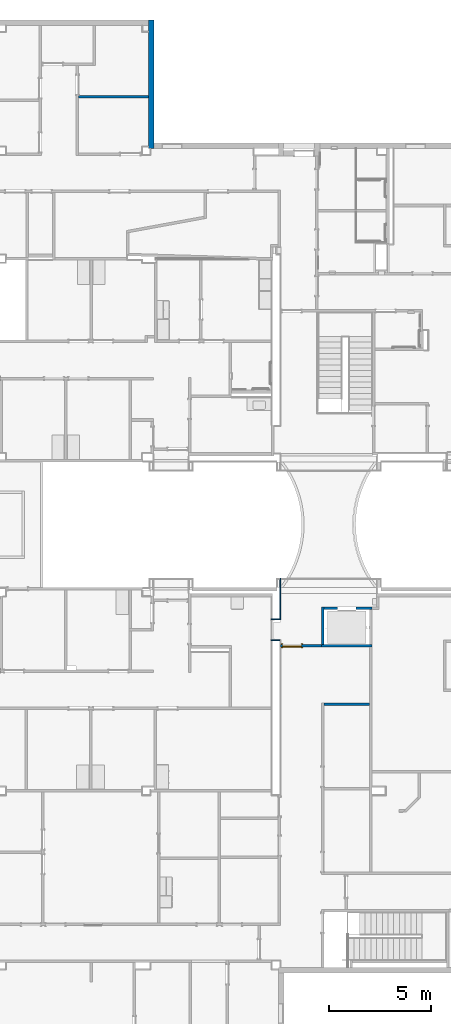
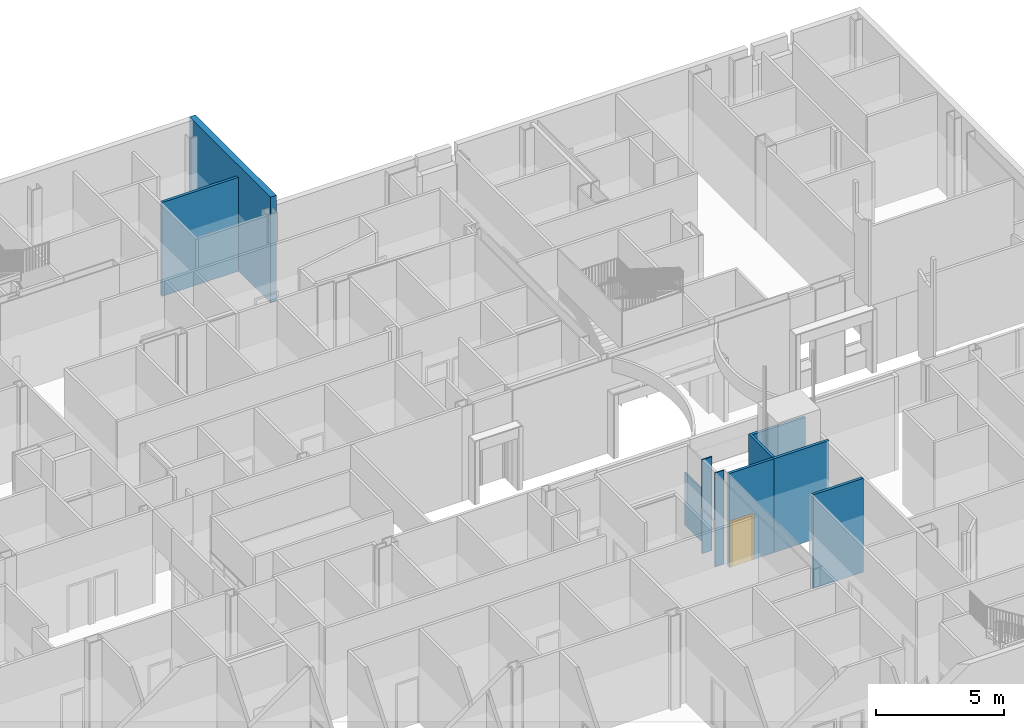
# One storey, part 35 of 82: 10 walls, 1 door, 2 openings.
"""IFC2X3 building model written with IfcOpenShell, lengths in metres."""

from ifc_helpers import new_model, entity, si_unit, converted_unit, frame, frame_2d, origin, origin_2d_with_axis, place, context, project, spatial, polyline, rectangle, outline, extrude, source, transform, mapped, material, layer, layer_set, layer_usage, type_object, type_shapes, element, fill, save


model = new_model("IFC2X3")

# Units and contexts
model_context = context("Model", 3, precision=1e-09, world=origin())
plan_context = context("Plan", 3, precision=1e-09, world=origin())
ifc_project = project(units=[si_unit("LENGTHUNIT", "METRE"), si_unit("AREAUNIT", "SQUARE_METRE"), si_unit("VOLUMEUNIT", "CUBIC_METRE"), converted_unit("PLANEANGLEUNIT", "DEGREE", entity("IfcRatioMeasure", 0.01745329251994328), si_unit("PLANEANGLEUNIT", "RADIAN"), dimensions=[0, 0, 0, 0, 0, 0, 0]), si_unit("TIMEUNIT", "SECOND")], contexts=[model_context, plan_context])

# Site, building, storey
site_placement = place(None, origin())
site = spatial("IfcSite", under=ifc_project, at=site_placement, Name="Default", CompositionType="ELEMENT")
building_placement = place(site_placement, origin())
building = spatial("IfcBuilding", under=site, at=building_placement, CompositionType="ELEMENT")
storey_placement = place(building_placement, origin())
storey = spatial("IfcBuildingStorey", under=building, at=storey_placement, Name="First Floor", CompositionType="ELEMENT", Elevation=-3.531500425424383e-13)

# Wall
ifc_material_1 = material(Name="Insulation - Insulated Panel")
ifc_layer_1 = layer(ifc_material_1, 0.042)
ifc_material_2 = material(Name="Metal - Firring")
ifc_layer_2 = layer(ifc_material_2, 0.038)
ifc_material_3 = material(Name="Wood - Sheathing - plywood")
ifc_layer_3 = layer(ifc_material_3, 0.019)
ifc_material_4 = material(Name="Metal - Stud Layer")
ifc_layer_4 = layer(ifc_material_4, 0.152)
ifc_material_5 = material(Name="Plasterboard")
ifc_layer_5 = layer(ifc_material_5, 0.016)
ifc_layer_set_1 = layer_set([ifc_layer_1, ifc_layer_2, ifc_layer_3, ifc_layer_4, ifc_layer_5], Name="Basic Wall:Exterior - Insul Panel on Mtl. Stud")
ifc_layer_usage_1 = layer_usage(ifc_layer_set_1, "AXIS2", "NEGATIVE", 0.1335)
wall_1_placement = place(storey_placement, frame((-26.19350000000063, 56.5199999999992, 0.0), z_axis=(0.0, 0.0, 1.0), x_axis=(0.0, -1.0, 0.0)))
element("IfcWallStandardCase", 1, at=wall_1_placement, inside=storey, material=ifc_layer_usage_1, Name="Basic Wall:Exterior - Insul Panel on Mtl. Stud", ObjectType="Basic Wall:Exterior - Insul Panel on Mtl. Stud", context=model_context, shape_type="SweptSolid", body=[
    extrude(rectangle(XDim=6.31699999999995, YDim=0.2669999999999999, at=frame_2d((3.158499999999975, 0.0), x_axis=(-1.0, 0.0))), origin(), (0.0, 0.0, 1.0), 5.02700000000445),
])

# Wall, opening
ifc_material_6 = material(Name="Type-X Plasterboard")
ifc_layer_6 = layer(ifc_material_6, 0.016)
ifc_layer_7 = layer(ifc_material_4, 0.092)
ifc_layer_8 = layer(ifc_material_6, 0.016)
ifc_layer_set_2 = layer_set([ifc_layer_6, ifc_layer_7, ifc_layer_8], Name="Basic Wall:Interior - Rated 1-HR (92mm Stud)")
ifc_layer_usage_2 = layer_usage(ifc_layer_set_2, "AXIS2", "NEGATIVE", 0.06200000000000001)
wall_2_placement = place(storey_placement, frame((-17.70520000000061, 27.58389999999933, 0.0)))
wall_2 = element("IfcWallStandardCase", 2, at=wall_2_placement, inside=storey, material=ifc_layer_usage_2, Name="Basic Wall:Interior - Rated 1-HR (92mm Stud)", ObjectType="Basic Wall:Interior - Rated 1-HR (92mm Stud)", context=model_context, shape_type="SweptSolid", body=[
    extrude(rectangle(XDim=2.369200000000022, YDim=0.1239999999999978, at=frame_2d((1.184600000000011, 0.0), x_axis=(-1.0, 0.0))), origin(), (0.0, 0.0, 1.0), 4.46800000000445),
])
opening_1_placement = place(wall_2_placement, frame((1.117599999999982, 0.0619999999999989, 1.067000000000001)))
element("IfcOpeningElement", 3, at=opening_1_placement, cuts=wall_2, Name="Basic Wall:Interior - Rated 1-HR (92mm Stud):2", ObjectType="Opening", context=model_context, shape_type="SweptSolid", body=[
    extrude(rectangle(XDim=2.134, YDim=0.9144000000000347, at=frame_2d((0.0, 0.0), x_axis=(0.0, 1.0))), frame((0.0, 0.0, 0.0), z_axis=(0.0, -1.0, 0.0), x_axis=(1.0, 0.0, 0.0)), (0.0, 0.0, 1.0), 0.124),
])

# Wall
wall_3_placement = place(storey_placement, frame((-15.33600000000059, 25.74539999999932, 0.0), z_axis=(0.0, 0.0, 1.0), x_axis=(-1.0, 0.0, 0.0)))
element("IfcWallStandardCase", 4, at=wall_3_placement, inside=storey, material=ifc_layer_usage_2, Name="Basic Wall:Interior - Rated 1-HR (92mm Stud)", ObjectType="Basic Wall:Interior - Rated 1-HR (92mm Stud)", context=model_context, shape_type="SweptSolid", body=[
    extrude(rectangle(XDim=2.493200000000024, YDim=0.1239999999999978, at=frame_2d((1.246600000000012, 0.0), x_axis=(-1.0, 0.0))), origin(), (0.0, 0.0, 1.0), 4.468000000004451),
])

# Wall, opening, door
ifc_layer_9 = layer(ifc_material_5, 0.016)
ifc_layer_10 = layer(ifc_material_4, 0.092)
ifc_layer_11 = layer(ifc_material_5, 0.016)
ifc_layer_set_3 = layer_set([ifc_layer_9, ifc_layer_10, ifc_layer_11], Name="Basic Wall:Interior - Partition (92mm Stud)")
ifc_layer_usage_3 = layer_usage(ifc_layer_set_3, "AXIS2", "NEGATIVE", 0.062)
wall_4_placement = place(storey_placement, frame((-17.82920000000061, 25.74539999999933, 0.0), z_axis=(0.0, 0.0, 1.0), x_axis=(-1.0, 0.0, 0.0)))
wall_4 = element("IfcWallStandardCase", 5, at=wall_4_placement, inside=storey, material=ifc_layer_usage_3, Name="Basic Wall:Interior - Partition (92mm Stud)", ObjectType="Basic Wall:Interior - Partition (92mm Stud)", context=model_context, shape_type="SweptSolid", body=[
    extrude(rectangle(XDim=2.000800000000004, YDim=0.1239999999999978, at=frame_2d((1.000400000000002, 0.0), x_axis=(-1.0, 0.0))), origin(), (0.0, 0.0, 1.0), 4.46800000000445),
])
opening_2_placement = place(wall_4_placement, frame((0.9858000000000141, -0.06200000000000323, 0.0)))
opening_2 = element("IfcOpeningElement", 6, at=opening_2_placement, cuts=wall_4, Name=":1", ObjectType="Opening", context=model_context, shape_type="SweptSolid", body=[
    extrude(rectangle(XDim=0.9149999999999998, YDim=2.134, at=frame_2d((1.067, 0.4574999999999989), x_axis=(0.0, 1.0))), frame((0.0, 0.0, 0.0), z_axis=(0.0, 1.0, 0.0), x_axis=(0.0, 0.0, 1.0)), (0.0, 0.0, 1.0), 0.124),
])
door_style = type_object("IfcDoorStyle", Name="0915 x 2134mm", ConstructionType="NOTDEFINED", OperationType="SINGLE_SWING_RIGHT", ParameterTakesPrecedence=False, Sizeable=False)
shared_shape = source(origin(), model_context, "Body", "SweptSolid", [
    extrude(outline(polyline([(-0.5335, -1.123999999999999), (0.5334999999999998, -1.123999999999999), (0.5334999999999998, 1.086), (0.4574999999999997, 1.086), (0.4574999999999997, -1.048000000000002), (-0.4574999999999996, -1.048000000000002), (-0.4574999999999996, 1.086), (-0.5335, 1.086), (-0.5335, -1.123999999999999)])), frame((0.4575000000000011, 0.1239999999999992, 1.086), z_axis=(0.0, 1.0, 0.0), x_axis=(1.0, 0.0, 0.0)), (0.0, 0.0, 1.0), 0.02499999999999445),
    extrude(outline(polyline([(-1.123999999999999, -0.5334999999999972), (1.085999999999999, -0.5334999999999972), (1.085999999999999, -0.4575000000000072), (-1.048, -0.4575000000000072), (-1.048, 0.4575000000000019), (1.085999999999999, 0.4575000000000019), (1.085999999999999, 0.5335000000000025), (-1.123999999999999, 0.5335000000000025), (-1.123999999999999, -0.5334999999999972)])), frame((0.4575000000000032, -0.02500000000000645, 1.085999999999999), z_axis=(0.0, 1.0, 0.0), x_axis=(0.0, 0.0, -1.0)), (0.0, 0.0, 1.0), 0.02500000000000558),
    extrude(rectangle(XDim=0.051, YDim=0.9149999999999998, at=origin_2d_with_axis()), frame((0.4575000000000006, 0.09849999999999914, 0.0), z_axis=(0.0, 0.0, 1.0), x_axis=(0.0, 1.0, 0.0)), (0.0, 0.0, 1.0), 2.133999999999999),
])
type_shapes(door_style, [shared_shape])
door_placement = place(opening_2_placement, origin())
door = element("IfcDoor", 7, at=door_placement, inside=storey, type_object=door_style, Name="M_Single-Flush:0915 x 2134mm:0915 x 2134mm", ObjectType="0915 x 2134mm", OverallHeight=2.134, OverallWidth=0.9149999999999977, context=model_context, shape_type="MappedRepresentation", body=[
    mapped(shared_shape, transform((0.0, 0.0, 0.0), scale=1.0)),
])
fill(opening_2, door)

# Walls
ifc_layer_12 = layer(ifc_material_4, 0.038)
ifc_layer_13 = layer(ifc_material_5, 0.016)
ifc_layer_set_4 = layer_set([ifc_layer_12, ifc_layer_13], Name="Basic Wall:Interior - Furring (38 mm Stud)")
ifc_layer_usage_4 = layer_usage(ifc_layer_set_4, "AXIS2", "NEGATIVE", 0.027)
wall_5_placement = place(storey_placement, frame((-19.85700000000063, 27.06899999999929, 0.0), z_axis=(0.0, 0.0, 1.0), x_axis=(0.0, 1.0, 0.0)))
element("IfcWallStandardCase", 8, at=wall_5_placement, inside=storey, material=ifc_layer_usage_4, Name="Basic Wall:Interior - Furring (38 mm Stud)", ObjectType="Basic Wall:Interior - Furring (38 mm Stud)", context=model_context, shape_type="SweptSolid", body=[
    extrude(rectangle(XDim=2.001000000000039, YDim=0.05399999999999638, at=frame_2d((1.00050000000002, 0.0), x_axis=(-1.0, 0.0))), origin(), (0.0, 0.0, 1.0), 2.5),
])
wall_6_placement = place(storey_placement, frame((-17.76720000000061, 25.80739999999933, 0.0), z_axis=(0.0, 0.0, 1.0), x_axis=(0.0, 1.0, 0.0)))
element("IfcWallStandardCase", 9, at=wall_6_placement, inside=storey, material=ifc_layer_usage_2, Name="Basic Wall:Interior - Rated 1-HR (92mm Stud)", ObjectType="Basic Wall:Interior - Rated 1-HR (92mm Stud)", context=model_context, shape_type="SweptSolid", body=[
    extrude(rectangle(XDim=1.838499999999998, YDim=0.1240000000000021, at=frame_2d((0.919249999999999, 0.0), x_axis=(-1.0, 0.0))), origin(), (0.0, 0.0, 1.0), 4.46800000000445),
])
wall_7_placement = place(storey_placement, frame((-17.70600000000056, 22.85803069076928, 0.0)))
element("IfcWallStandardCase", 10, at=wall_7_placement, inside=storey, material=ifc_layer_usage_3, Name="Basic Wall:Interior - Partition (92mm Stud)", ObjectType="Basic Wall:Interior - Partition (92mm Stud)", context=model_context, shape_type="SweptSolid", body=[
    extrude(rectangle(XDim=2.24599999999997, YDim=0.1239999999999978, at=frame_2d((1.122999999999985, 0.0), x_axis=(-1.0, 0.0))), origin(), (0.0, 0.0, 1.0), 4.46800000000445),
])
wall_8_placement = place(storey_placement, frame((-26.32700000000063, 52.75199999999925, 0.0), z_axis=(0.0, 0.0, 1.0), x_axis=(-1.0, 0.0, 0.0)))
element("IfcWallStandardCase", 11, at=wall_8_placement, inside=storey, material=ifc_layer_usage_3, Name="Basic Wall:Interior - Partition (92mm Stud)", ObjectType="Basic Wall:Interior - Partition (92mm Stud)", context=model_context, shape_type="SweptSolid", body=[
    extrude(rectangle(XDim=3.439000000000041, YDim=0.1240000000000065, at=frame_2d((1.719500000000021, 0.0), x_axis=(-1.0, 0.0))), origin(), (0.0, 0.0, 1.0), 4.46800000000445),
])
wall_9_placement = place(storey_placement, frame((-19.88400000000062, 26.01899999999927, 0.0), z_axis=(0.0, 0.0, 1.0), x_axis=(-1.0, 0.0, 0.0)))
element("IfcWallStandardCase", 12, at=wall_9_placement, inside=storey, material=ifc_layer_usage_4, Name="Basic Wall:Interior - Furring (38 mm Stud)", ObjectType="Basic Wall:Interior - Furring (38 mm Stud)", context=model_context, shape_type="SweptSolid", body=[
    extrude(rectangle(XDim=0.406000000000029, YDim=0.05399999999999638, at=frame_2d((0.2030000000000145, 0.0), x_axis=(-1.0, 0.0))), origin(), (0.0, 0.0, 1.0), 4.46800000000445),
])
wall_10_placement = place(storey_placement, frame((-20.29000000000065, 27.04199999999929, 0.0)))
element("IfcWallStandardCase", 13, at=wall_10_placement, inside=storey, material=ifc_layer_usage_4, Name="Basic Wall:Interior - Furring (38 mm Stud)", ObjectType="Basic Wall:Interior - Furring (38 mm Stud)", context=model_context, shape_type="SweptSolid", body=[
    extrude(rectangle(XDim=0.4600000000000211, YDim=0.05399999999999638, at=frame_2d((0.2300000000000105, 0.0), x_axis=(-1.0, 0.0))), origin(), (0.0, 0.0, 1.0), 4.468000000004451),
])

save(model, "model.ifc")
